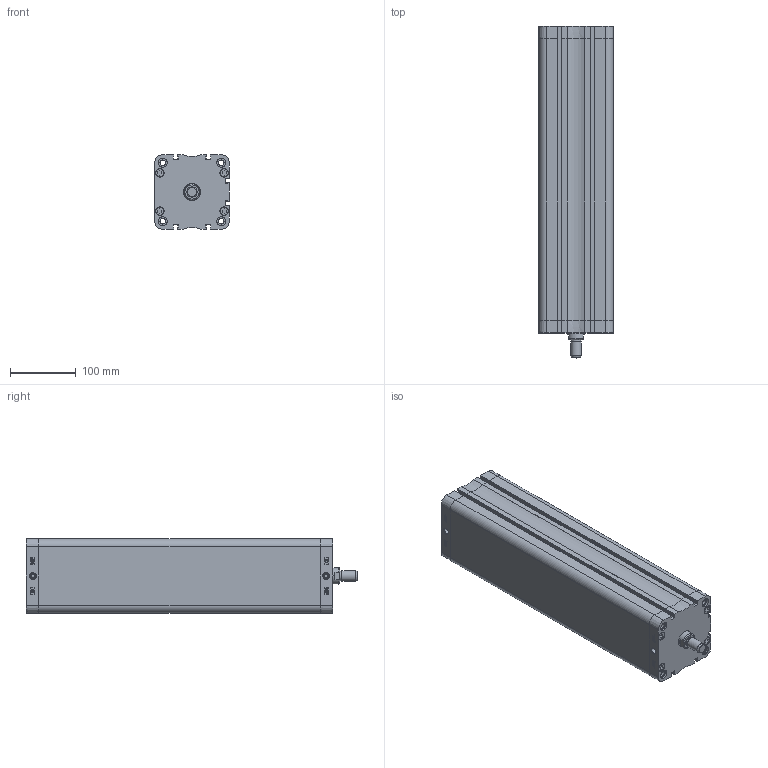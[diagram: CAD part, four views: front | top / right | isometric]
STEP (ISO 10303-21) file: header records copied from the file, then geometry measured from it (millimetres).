
FILE_DESCRIPTION((''),'2;1');
FILE_NAME('T:\Archivio Inventor\- CATALOGHI 2012\SERIE P - NUOVA\PDM\PDM100\PDM100.---.GS.M\PDM100.400.GS.M.stp','2013-02-05T11:46:34',('Administrator'),(''),'Autodesk Inventor 2012','Autodesk Inventor 2012','');
FILE_SCHEMA(('CONFIG_CONTROL_DESIGN'));
Length unit declared in the file: millimetre
Products named in the file (1): PDM100.400.GS.M
Bounding box: 113.3 x 505 x 113.3 mm (x, y, z)
Volume: 1847133.9 mm3; surface area: 566452.1 mm2
Topology: 1 solids, 5 shells, 908 faces, 2136 edges, 1312 vertices
Faces by surface type: plane 371, bspline 226, cylinder 148, cone 81, torus 58, sphere 24
Full cylindrical faces by diameter (mm): 6 x2, 8.3 x4, 8.376 x8, 8.566 x2, 9.976 x4, 12 x1, 12.7 x8, 13.1 x8, 13.5 x8, 14 x1, 16 x1, 25 x1, 25.5 x1, 100 x1, 103.5 x1, 103.7 x1
Entity records: 29573 total; most frequent: CARTESIAN_POINT 9705, ORIENTED_EDGE 4030, DIRECTION 3400, EDGE_CURVE 2015, VERTEX_POINT 1291, AXIS2_PLACEMENT_3D 1208, EDGE_LOOP 1088, VECTOR 984
